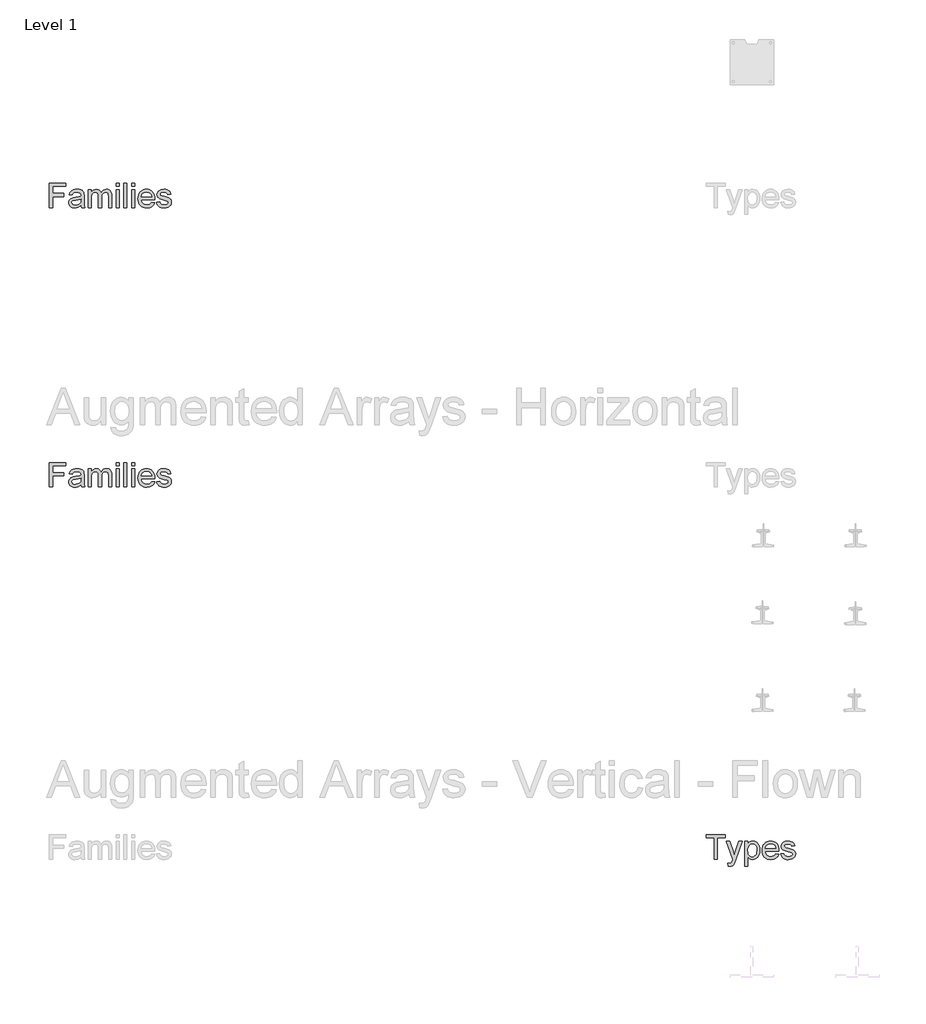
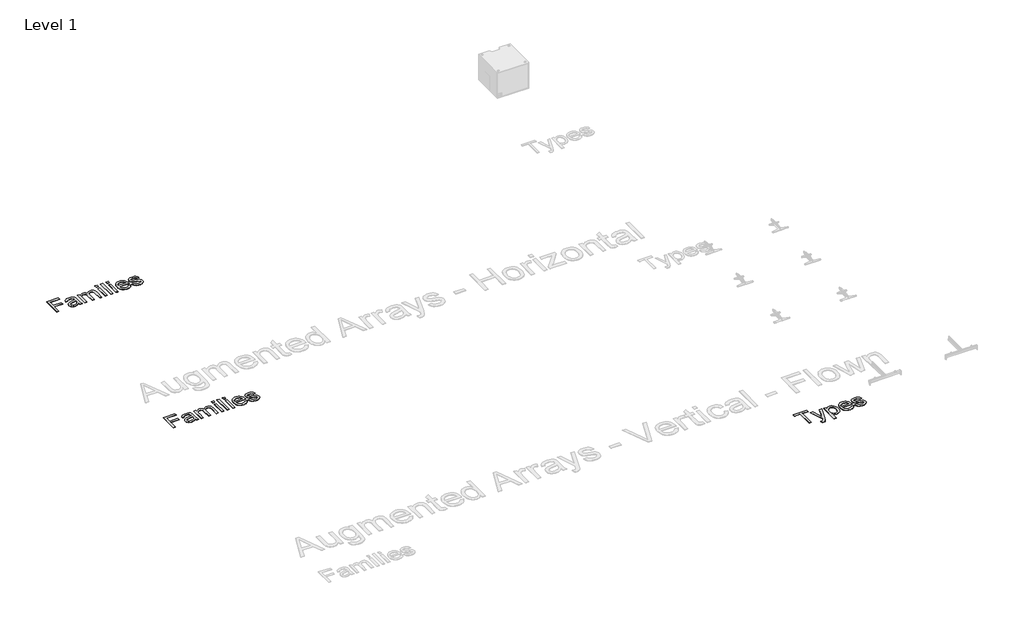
# One storey, part 4 of 9: 3 proxies.
"""IFC4 building model written with IfcOpenShell, lengths in millimetres."""

from ifc_helpers import new_model, si_unit, origin, origin_with_axes, place, context, project, spatial, polyline, outline, extrude, element, save

model = new_model("IFC4")

# Units and contexts
model_context = context("Model", 3, world=origin())
ifc_project = project(units=[si_unit("LENGTHUNIT", "METRE", prefix="MILLI")], contexts=[model_context])

# Site, building, storey
site = spatial("IfcSite", under=ifc_project)
building = spatial("IfcBuilding", under=site)
storey = spatial("IfcBuildingStorey", under=building, Name="Level 1", Elevation=0.0)

# Proxies
placement = place(None, origin())
element("IfcBuildingElementProxy", 1, Name="400mm Arial", ObjectType="400mm Arial", at=placement, inside=storey, context=model_context, shape_type="SweptSolid", body=[
    extrude(outline(polyline([(-21056.720891, 4351.3054836), (-21056.720891, 4743.0630593), (-20793.5087698, 4743.0630593), (-20793.5087698, 4694.0933624), (-21007.7511941, 4694.0933624), (-21007.7511941, 4577.7903321), (-20824.1148304, 4577.7903321), (-20824.1148304, 4528.8206351), (-21007.7511941, 4528.8206351), (-21007.7511941, 4351.3054836), (-21056.720891, 4351.3054836)])), origin_with_axes(), (0.0, 0.0, 1.0), 5.0),
    extrude(outline(polyline([(-20548.660285, 4388.0327563), (-20572.0571836, 4367.97144), (-20596.1475009, 4354.8443093), (-20621.4811893, 4347.5992809), (-20648.6082016, 4345.1842715), (-20670.4120309, 4346.6368638), (-20689.5318522, 4350.9946408), (-20705.9676654, 4358.2576024), (-20719.7194706, 4368.4257487), (-20730.5780466, 4380.8534831), (-20738.3341723, 4394.895209), (-20742.9878477, 4410.5509263), (-20744.5390729, 4427.8206351), (-20742.1957963, 4448.1210612), (-20735.1659668, 4466.5564305), (-20724.3223352, 4482.3376805), (-20710.5376524, 4494.6757487), (-20676.2493001, 4510.7439305), (-20633.879035, 4518.1085139), (-20583.8094327, 4525.855673), (-20548.9472168, 4534.9418472), (-20548.660285, 4545.8452563), (-20552.0317338, 4567.6998965), (-20562.1460804, 4581.9986654), (-20584.7658721, 4592.6151427), (-20616.2805501, 4596.1539684), (-20645.4519516, 4593.7987364), (-20665.8241107, 4586.7330404), (-20679.7163929, 4573.6656872), (-20689.4481638, 4553.3054836), (-20738.4178607, 4559.4266957), (-20729.9175056, 4586.2069987), (-20717.2327282, 4607.2486654), (-20699.1799346, 4623.3407582), (-20674.5755312, 4635.2723396), (-20644.4835568, 4642.660834), (-20609.9680501, 4645.1236654), (-20576.8632916, 4642.9477658), (-20550.6209857, 4636.4200669), (-20530.8346458, 4626.6046076), (-20517.097785, 4614.5654268), (-20507.9876997, 4599.6808387), (-20502.0816865, 4581.3291578), (-20499.690588, 4538.480673), (-20499.690588, 4477.5554836), (-20497.2038456, 4392.4801995), (-20487.4481638, 4351.3054836), (-20536.4178607, 4351.3054836), (-20544.2606638, 4368.3301048), (-20548.660285, 4388.0327563)]), holes=[polyline([(-20548.660285, 4485.9721502), (-20581.5618001, 4477.8185044), (-20627.6621789, 4470.9560518), (-20669.7933342, 4463.0176048), (-20680.7565208, 4457.5898112), (-20688.8743001, 4450.105673), (-20693.8956069, 4441.1390536), (-20695.5693759, 4431.2638169), (-20691.9229507, 4416.7020271), (-20680.9836751, 4404.7704457), (-20662.990659, 4396.8080877), (-20638.1830122, 4394.1539684), (-20611.8809289, 4397.0830641), (-20588.6394516, 4405.870351), (-20569.7975956, 4418.8181493), (-20556.6943759, 4434.228779), (-20550.8840066, 4450.105673), (-20548.9472168, 4472.103779), (-20548.660285, 4485.9721502)])]), origin_with_axes(), (0.0, 0.0, 1.0), 5.0),
    extrude(outline(polyline([(-20432.3572547, 4351.3054836), (-20432.3572547, 4639.0024533), (-20383.3875577, 4639.0024533), (-20383.3875577, 4591.6587033), (-20368.658391, 4613.405744), (-20349.720891, 4630.4423207), (-20327.2206543, 4641.4533292), (-20301.8032774, 4645.1236654), (-20274.5686657, 4641.3815963), (-20252.7379365, 4630.1553889), (-20236.4306448, 4612.1862838), (-20225.7663456, 4588.2155215), (-20207.9167954, 4613.1128344), (-20187.5565918, 4630.8966294), (-20164.6857348, 4641.5669064), (-20139.3042244, 4645.1236654), (-20119.7002057, 4643.6441732), (-20102.4932632, 4639.2056966), (-20087.683397, 4631.8082357), (-20075.2706069, 4621.4517904), (-20065.4581365, 4608.0168058), (-20058.4492291, 4591.3837269), (-20054.2438846, 4571.5525539), (-20052.8421032, 4548.5232866), (-20052.8421032, 4351.3054836), (-20101.8118001, 4351.3054836), (-20101.8118001, 4527.4816199), (-20106.3548872, 4568.369404), (-20112.7391202, 4579.6434334), (-20122.8056448, 4588.5024533), (-20135.7534431, 4594.2410896), (-20150.7814971, 4596.1539684), (-20177.3107348, 4591.2522165), (-20198.9382206, 4576.5469608), (-20207.3279874, 4565.2669537), (-20213.320678, 4551.03394), (-20218.1148304, 4513.7088927), (-20218.1148304, 4351.3054836), (-20267.0845274, 4351.3054836), (-20267.0845274, 4532.9333245), (-20269.9179791, 4560.6222449), (-20278.4183342, 4580.3727184), (-20293.3746552, 4592.2086559), (-20315.5760047, 4596.1539684), (-20334.4417717, 4593.5237601), (-20351.8250577, 4585.6331351), (-20366.1716486, 4572.6733813), (-20375.9273304, 4554.8357866), (-20381.5225009, 4530.0879173), (-20383.3875577, 4496.3973396), (-20383.3875577, 4351.3054836), (-20432.3572547, 4351.3054836)])), origin_with_axes(), (0.0, 0.0, 1.0), 5.0),
    extrude(outline(polyline([(-19979.3875577, 4351.3054836), (-19979.3875577, 4639.0024533), (-19930.4178607, 4639.0024533), (-19930.4178607, 4351.3054836), (-19979.3875577, 4351.3054836)])), origin_with_axes(), (0.0, 0.0, 1.0), 5.0),
    extrude(outline(polyline([(-19979.3875577, 4694.0933624), (-19979.3875577, 4743.0630593), (-19930.4178607, 4743.0630593), (-19930.4178607, 4694.0933624), (-19979.3875577, 4694.0933624)])), origin_with_axes(), (0.0, 0.0, 1.0), 5.0),
    extrude(outline(polyline([(-19856.9633153, 4351.3054836), (-19856.9633153, 4743.0630593), (-19807.9936183, 4743.0630593), (-19807.9936183, 4351.3054836), (-19856.9633153, 4351.3054836)])), origin_with_axes(), (0.0, 0.0, 1.0), 5.0),
    extrude(outline(polyline([(-19734.5390729, 4351.3054836), (-19734.5390729, 4639.0024533), (-19685.5693759, 4639.0024533), (-19685.5693759, 4351.3054836), (-19734.5390729, 4351.3054836)])), origin_with_axes(), (0.0, 0.0, 1.0), 5.0),
    extrude(outline(polyline([(-19734.5390729, 4694.0933624), (-19734.5390729, 4743.0630593), (-19685.5693759, 4743.0630593), (-19685.5693759, 4694.0933624), (-19734.5390729, 4694.0933624)])), origin_with_axes(), (0.0, 0.0, 1.0), 5.0),
    extrude(outline(polyline([(-19410.6886941, 4437.0024533), (-19362.6754365, 4430.8812411), (-19370.0370309, 4411.6508316), (-19379.975034, 4394.7039211), (-19392.4894457, 4380.0405096), (-19407.580266, 4367.6605972), (-19425.0920736, 4357.8272047), (-19444.8694469, 4350.8033529), (-19491.220891, 4345.1842715), (-19521.605775, 4347.6082475), (-19548.6789876, 4354.8801758), (-19572.4405288, 4367.0000563), (-19592.8903986, 4383.9678889), (-19609.3351784, 4405.3114317), (-19621.0814497, 4430.5584429), (-19628.1292125, 4459.7089223), (-19630.4784668, 4492.7628699), (-19628.1053015, 4526.937645), (-19620.9858058, 4557.0595082), (-19609.1199796, 4583.1284594), (-19592.5078229, 4605.1444987), (-19572.1117528, 4622.6353841), (-19548.8941865, 4635.1288737), (-19522.855124, 4642.6249675), (-19493.9945653, 4645.1236654), (-19466.0635461, 4642.6309452), (-19440.8045795, 4635.1527847), (-19418.2176654, 4622.6891839), (-19398.3028039, 4605.2401427), (-19382.0463231, 4583.2719253), (-19370.4345511, 4557.2507961), (-19363.4674879, 4527.1767549), (-19361.1451335, 4493.0498018), (-19361.4320653, 4479.8509381), (-19581.5087698, 4479.8509381), (-19578.6723292, 4460.3096858), (-19573.0323257, 4443.1953983), (-19564.5887592, 4428.5080759), (-19553.3416297, 4416.2477184), (-19524.9234242, 4399.6774059), (-19490.2644516, 4394.1539684), (-19464.2014782, 4396.7124438), (-19442.2511941, 4404.3878699), (-19424.4135994, 4417.6584665), (-19410.6886941, 4437.0024533)]), holes=[polyline([(-19581.5087698, 4528.8206351), (-19410.1148304, 4528.8206351), (-19416.7381732, 4554.6923207), (-19429.721838, 4573.199423), (-19443.076123, 4583.2420366), (-19458.2715539, 4590.4153321), (-19494.1858532, 4596.1539684), (-19527.1949677, 4591.5750148), (-19554.4893569, 4577.838154), (-19573.4627234, 4556.4258671), (-19581.5087698, 4528.8206351)])]), origin_with_axes(), (0.0, 0.0, 1.0), 5.0),
    extrude(outline(polyline([(-19330.5390729, 4437.0024533), (-19281.5693759, 4443.1236654), (-19273.8461278, 4422.1776427), (-19258.9017622, 4406.7789684), (-19236.6406354, 4397.3102184), (-19206.9671032, 4394.1539684), (-19177.6522357, 4397.0471976), (-19157.0409668, 4405.7268851), (-19144.8463645, 4418.3040631), (-19140.7814971, 4432.8897639), (-19144.8702755, 4445.371298), (-19157.1366107, 4454.8878699), (-19207.5409668, 4468.8518851), (-19281.2824441, 4492.8106919), (-19299.9449677, 4504.8498728), (-19313.4666297, 4520.7865442), (-19321.680053, 4539.6044893), (-19324.4178607, 4560.2874911), (-19322.2180501, 4579.2608576), (-19315.6186183, 4596.775654), (-19305.2173399, 4612.1384618), (-19291.6119895, 4624.6558624), (-19260.4798872, 4639.1459192), (-19218.3487319, 4645.1236654), (-19186.4753891, 4642.7206114), (-19158.7625577, 4635.5114495), (-19136.4775198, 4624.2015536), (-19120.8875577, 4609.496298), (-19110.5580122, 4590.3077326), (-19104.0542244, 4565.5479078), (-19153.0239213, 4559.4266957), (-19159.2049109, 4574.8373254), (-19171.4353797, 4586.4461086), (-19189.8348825, 4593.7270035), (-19214.5229744, 4596.1539684), (-19242.6422925, 4593.8346029), (-19261.3885047, 4586.8765063), (-19271.933249, 4576.8338927), (-19275.4481638, 4565.260976), (-19269.6138835, 4551.010029), (-19251.345891, 4540.2022639), (-19209.1669138, 4529.7770745), (-19137.2904933, 4506.7268851), (-19118.3051713, 4495.7039211), (-19103.9107585, 4480.6160896), (-19094.8365397, 4461.4155688), (-19091.8118001, 4438.0545366), (-19095.3625814, 4413.9044419), (-19106.0149251, 4391.1890063), (-19123.3623446, 4371.6895982), (-19146.9983532, 4357.1875858), (-19175.5480691, 4348.1851), (-19207.6366107, 4345.1842715), (-19233.9924938, 4346.630886), (-19257.0127944, 4350.9707298), (-19276.6975127, 4358.2038027), (-19293.0466486, 4368.3301048), (-19306.4009336, 4381.3018141), (-19317.1010994, 4397.0711086), (-19325.1471458, 4415.6379883), (-19330.5390729, 4437.0024533)])), origin_with_axes(), (0.0, 0.0, 1.0), 5.0),
])
element("IfcBuildingElementProxy", 2, Name="400mm Arial", ObjectType="400mm Arial", at=placement, inside=storey, context=model_context, shape_type="SweptSolid", body=[
    extrude(outline(polyline([(-10345.9583027, -1648.6945164), (-10345.9583027, -1305.9066376), (-10474.5037572, -1305.9066376), (-10474.5037572, -1256.9369407), (-10168.4431512, -1256.9369407), (-10168.4431512, -1305.9066376), (-10296.9886057, -1305.9066376), (-10296.9886057, -1648.6945164), (-10345.9583027, -1648.6945164)])), origin_with_axes(), (0.0, 0.0, 1.0), 5.0),
    extrude(outline(polyline([(-10119.4734542, -1758.8763346), (-10125.5946663, -1711.7238725), (-10100.7272421, -1716.0278498), (-10087.6479334, -1714.6768791), (-10077.4857648, -1710.6239672), (-10063.2348179, -1695.5600467), (-10049.8446663, -1659.5022816), (-10046.0189088, -1647.6424331), (-10150.0795148, -1360.9975467), (-10098.4317875, -1360.9975467), (-10043.2452345, -1520.7229255), (-10024.0208027, -1584.613077), (-10004.7963709, -1528.1831528), (-9948.0795148, -1360.9975467), (-9896.8143633, -1360.9975467), (-9996.9535679, -1655.5808801), (-10022.9687194, -1719.4710316), (-10036.2871379, -1739.8671017), (-10051.3749694, -1753.9984937), (-10068.9017213, -1762.2477835), (-10089.5369012, -1764.9975467), (-10119.4734542, -1758.8763346)])), origin_with_axes(), (0.0, 0.0, 1.0), 5.0),
    extrude(outline(polyline([(-9856.261333, -1758.8763346), (-9856.261333, -1360.9975467), (-9807.291636, -1360.9975467), (-9807.291636, -1409.0108043), (-9791.3190982, -1385.3269738), (-9773.4336815, -1368.409952), (-9752.5833027, -1358.259739), (-9727.7158785, -1354.8763346), (-9694.5991644, -1359.6107096), (-9665.6429618, -1373.8138346), (-9642.0667307, -1396.6249142), (-9625.0899315, -1427.1831528), (-9614.832119, -1463.2648289), (-9611.4128482, -1502.646221), (-9615.2744722, -1544.5263109), (-9626.8593444, -1581.9828687), (-9645.7968444, -1613.114971), (-9671.7163519, -1636.0216945), (-9701.9039703, -1650.11722), (-9733.6458027, -1654.8157285), (-9756.1579949, -1651.671434), (-9776.2551777, -1642.2385505), (-9793.4591313, -1627.999559), (-9807.291636, -1610.4369407), (-9807.291636, -1758.8763346), (-9856.261333, -1758.8763346)]), holes=[polyline([(-9807.291636, -1507.1414861), (-9801.9953529, -1551.0420543), (-9795.374999, -1568.0427645), (-9786.1065035, -1581.7437589), (-9762.6617828, -1599.8204634), (-9749.2447314, -1604.3396395), (-9734.697886, -1605.8460316), (-9719.9418195, -1604.2858398), (-9706.2796805, -1599.6052645), (-9682.2371853, -1580.8829634), (-9672.6757802, -1566.6858161), (-9665.8462052, -1549.0574426), (-9660.3825451, -1503.5070164), (-9665.7146947, -1459.8455581), (-9672.3798818, -1442.7133375), (-9681.7111436, -1428.7134558), (-9705.1199978, -1410.0628876), (-9718.3846166, -1405.4002456), (-9732.6893633, -1403.8460316), (-9746.9492769, -1405.4988784), (-9760.3663283, -1410.4574189), (-9784.6718444, -1430.2915808), (-9794.5680032, -1445.0117809), (-9801.6366881, -1462.7268318), (-9805.8778991, -1483.4367335), (-9807.291636, -1507.1414861)])]), origin_with_axes(), (0.0, 0.0, 1.0), 5.0),
    extrude(outline(polyline([(-9354.8958027, -1562.9975467), (-9306.8825451, -1569.1187589), (-9314.2441396, -1588.3491684), (-9324.1821427, -1605.2960789), (-9336.6965544, -1619.9594904), (-9351.7873747, -1632.3394028), (-9369.2991822, -1642.1727953), (-9389.0765555, -1649.1966471), (-9435.4279997, -1654.8157285), (-9465.8128837, -1652.3917525), (-9492.8860963, -1645.1198242), (-9516.6476375, -1632.9999437), (-9537.0975072, -1616.0321111), (-9553.5422871, -1594.6885683), (-9565.2885584, -1569.4415571), (-9572.3363212, -1540.2910777), (-9574.6855754, -1507.2371301), (-9572.3124102, -1473.062355), (-9565.1929144, -1442.9404918), (-9553.3270882, -1416.8715406), (-9536.7149315, -1394.8555013), (-9516.3188614, -1377.3646159), (-9493.1012951, -1364.8711263), (-9467.0622326, -1357.3750325), (-9438.2016739, -1354.8763346), (-9410.2706547, -1357.3690548), (-9385.0116881, -1364.8472153), (-9362.4247741, -1377.3108161), (-9342.5099125, -1394.7598573), (-9326.2534317, -1416.7280747), (-9314.6416597, -1442.7492039), (-9307.6745965, -1472.8232451), (-9305.3522421, -1506.9501982), (-9305.6391739, -1520.1490619), (-9525.7158785, -1520.1490619), (-9522.8794379, -1539.6903142), (-9517.2394343, -1556.8046017), (-9508.7958678, -1571.4919241), (-9497.5487383, -1583.7522816), (-9469.1305328, -1600.3225941), (-9434.4715603, -1605.8460316), (-9408.4085868, -1603.2875562), (-9386.4583027, -1595.6121301), (-9368.620708, -1582.3415335), (-9354.8958027, -1562.9975467)]), holes=[polyline([(-9525.7158785, -1471.1793649), (-9354.3219391, -1471.1793649), (-9360.9452819, -1445.3076793), (-9373.9289466, -1426.800577), (-9387.2832317, -1416.7579634), (-9402.4786625, -1409.5846679), (-9438.3929618, -1403.8460316), (-9471.4020764, -1408.4249852), (-9498.6964656, -1422.161846), (-9517.6698321, -1443.5741329), (-9525.7158785, -1471.1793649)])]), origin_with_axes(), (0.0, 0.0, 1.0), 5.0),
    extrude(outline(polyline([(-9274.7461815, -1562.9975467), (-9225.7764845, -1556.8763346), (-9218.0532364, -1577.8223573), (-9203.1088709, -1593.2210316), (-9180.847744, -1602.6897816), (-9151.1742118, -1605.8460316), (-9121.8593444, -1602.9528024), (-9101.2480754, -1594.2731149), (-9089.0534732, -1581.6959369), (-9084.9886057, -1567.1102361), (-9089.0773841, -1554.628702), (-9101.3437194, -1545.1121301), (-9151.7480754, -1531.1481149), (-9225.4895527, -1507.1893081), (-9244.1520764, -1495.1501272), (-9257.6737383, -1479.2134558), (-9265.8871616, -1460.3955107), (-9268.6249694, -1439.7125089), (-9266.4251588, -1420.7391424), (-9259.8257269, -1403.224346), (-9249.4244485, -1387.8615382), (-9235.8190982, -1375.3441376), (-9204.6869959, -1360.8540808), (-9162.5558406, -1354.8763346), (-9130.6824978, -1357.2793886), (-9102.9696663, -1364.4885505), (-9080.6846285, -1375.7984464), (-9065.0946663, -1390.503702), (-9054.7651209, -1409.6922674), (-9048.261333, -1434.4520922), (-9097.23103, -1440.5733043), (-9103.4120196, -1425.1626746), (-9115.6424883, -1413.5538914), (-9134.0419911, -1406.2729965), (-9158.730083, -1403.8460316), (-9186.8494012, -1406.1653971), (-9205.5956133, -1413.1234937), (-9216.1403576, -1423.1661073), (-9219.6552724, -1434.739024), (-9213.8209921, -1448.989971), (-9195.5529997, -1459.7977361), (-9153.3740224, -1470.2229255), (-9081.4976019, -1493.2731149), (-9062.51228, -1504.2960789), (-9048.1178671, -1519.3839104), (-9039.0436483, -1538.5844312), (-9036.0189088, -1561.9454634), (-9039.56969, -1586.0955581), (-9050.2220338, -1608.8109937), (-9067.5694533, -1628.3104018), (-9091.2054618, -1642.8124142), (-9119.7551777, -1651.8149), (-9151.8437194, -1654.8157285), (-9178.1996024, -1653.369114), (-9201.2199031, -1649.0292702), (-9220.9046214, -1641.7961973), (-9237.2537572, -1631.6698952), (-9250.6080423, -1618.6981859), (-9261.308208, -1602.9288914), (-9269.3542544, -1584.3620117), (-9274.7461815, -1562.9975467)])), origin_with_axes(), (0.0, 0.0, 1.0), 5.0),
])
element("IfcBuildingElementProxy", 3, Name="400mm Arial", ObjectType="400mm Arial", at=placement, inside=storey, context=model_context, shape_type="SweptSolid", body=[
    extrude(outline(polyline([(-21056.720891, 8851.3054836), (-21056.720891, 9243.0630593), (-20793.5087698, 9243.0630593), (-20793.5087698, 9194.0933624), (-21007.7511941, 9194.0933624), (-21007.7511941, 9077.7903321), (-20824.1148304, 9077.7903321), (-20824.1148304, 9028.8206351), (-21007.7511941, 9028.8206351), (-21007.7511941, 8851.3054836), (-21056.720891, 8851.3054836)])), origin_with_axes(), (0.0, 0.0, 1.0), 5.0),
    extrude(outline(polyline([(-20548.660285, 8888.0327563), (-20572.0571836, 8867.97144), (-20596.1475009, 8854.8443093), (-20621.4811893, 8847.5992809), (-20648.6082016, 8845.1842715), (-20670.4120309, 8846.6368638), (-20689.5318522, 8850.9946408), (-20705.9676654, 8858.2576024), (-20719.7194706, 8868.4257487), (-20730.5780466, 8880.8534831), (-20738.3341723, 8894.895209), (-20742.9878477, 8910.5509263), (-20744.5390729, 8927.8206351), (-20742.1957963, 8948.1210612), (-20735.1659668, 8966.5564305), (-20724.3223352, 8982.3376805), (-20710.5376524, 8994.6757487), (-20676.2493001, 9010.7439305), (-20633.879035, 9018.1085139), (-20583.8094327, 9025.855673), (-20548.9472168, 9034.9418472), (-20548.660285, 9045.8452563), (-20552.0317338, 9067.6998965), (-20562.1460804, 9081.9986654), (-20584.7658721, 9092.6151427), (-20616.2805501, 9096.1539684), (-20645.4519516, 9093.7987364), (-20665.8241107, 9086.7330404), (-20679.7163929, 9073.6656872), (-20689.4481638, 9053.3054836), (-20738.4178607, 9059.4266957), (-20729.9175056, 9086.2069987), (-20717.2327282, 9107.2486654), (-20699.1799346, 9123.3407582), (-20674.5755312, 9135.2723396), (-20644.4835568, 9142.660834), (-20609.9680501, 9145.1236654), (-20576.8632916, 9142.9477658), (-20550.6209857, 9136.4200669), (-20530.8346458, 9126.6046076), (-20517.097785, 9114.5654268), (-20507.9876997, 9099.6808387), (-20502.0816865, 9081.3291578), (-20499.690588, 9038.480673), (-20499.690588, 8977.5554836), (-20497.2038456, 8892.4801995), (-20487.4481638, 8851.3054836), (-20536.4178607, 8851.3054836), (-20544.2606638, 8868.3301048), (-20548.660285, 8888.0327563)]), holes=[polyline([(-20548.660285, 8985.9721502), (-20581.5618001, 8977.8185044), (-20627.6621789, 8970.9560518), (-20669.7933342, 8963.0176048), (-20680.7565208, 8957.5898112), (-20688.8743001, 8950.105673), (-20693.8956069, 8941.1390536), (-20695.5693759, 8931.2638169), (-20691.9229507, 8916.7020271), (-20680.9836751, 8904.7704457), (-20662.990659, 8896.8080877), (-20638.1830122, 8894.1539684), (-20611.8809289, 8897.0830641), (-20588.6394516, 8905.870351), (-20569.7975956, 8918.8181493), (-20556.6943759, 8934.228779), (-20550.8840066, 8950.105673), (-20548.9472168, 8972.103779), (-20548.660285, 8985.9721502)])]), origin_with_axes(), (0.0, 0.0, 1.0), 5.0),
    extrude(outline(polyline([(-20432.3572547, 8851.3054836), (-20432.3572547, 9139.0024533), (-20383.3875577, 9139.0024533), (-20383.3875577, 9091.6587033), (-20368.658391, 9113.405744), (-20349.720891, 9130.4423207), (-20327.2206543, 9141.4533292), (-20301.8032774, 9145.1236654), (-20274.5686657, 9141.3815963), (-20252.7379365, 9130.1553889), (-20236.4306448, 9112.1862838), (-20225.7663456, 9088.2155215), (-20207.9167954, 9113.1128344), (-20187.5565918, 9130.8966294), (-20164.6857348, 9141.5669064), (-20139.3042244, 9145.1236654), (-20119.7002057, 9143.6441732), (-20102.4932632, 9139.2056966), (-20087.683397, 9131.8082357), (-20075.2706069, 9121.4517904), (-20065.4581365, 9108.0168058), (-20058.4492291, 9091.3837269), (-20054.2438846, 9071.5525539), (-20052.8421032, 9048.5232866), (-20052.8421032, 8851.3054836), (-20101.8118001, 8851.3054836), (-20101.8118001, 9027.4816199), (-20106.3548872, 9068.369404), (-20112.7391202, 9079.6434334), (-20122.8056448, 9088.5024533), (-20135.7534431, 9094.2410896), (-20150.7814971, 9096.1539684), (-20177.3107348, 9091.2522165), (-20198.9382206, 9076.5469608), (-20207.3279874, 9065.2669537), (-20213.320678, 9051.03394), (-20218.1148304, 9013.7088927), (-20218.1148304, 8851.3054836), (-20267.0845274, 8851.3054836), (-20267.0845274, 9032.9333245), (-20269.9179791, 9060.6222449), (-20278.4183342, 9080.3727184), (-20293.3746552, 9092.2086559), (-20315.5760047, 9096.1539684), (-20334.4417717, 9093.5237601), (-20351.8250577, 9085.6331351), (-20366.1716486, 9072.6733813), (-20375.9273304, 9054.8357866), (-20381.5225009, 9030.0879173), (-20383.3875577, 8996.3973396), (-20383.3875577, 8851.3054836), (-20432.3572547, 8851.3054836)])), origin_with_axes(), (0.0, 0.0, 1.0), 5.0),
    extrude(outline(polyline([(-19979.3875577, 8851.3054836), (-19979.3875577, 9139.0024533), (-19930.4178607, 9139.0024533), (-19930.4178607, 8851.3054836), (-19979.3875577, 8851.3054836)])), origin_with_axes(), (0.0, 0.0, 1.0), 5.0),
    extrude(outline(polyline([(-19979.3875577, 9194.0933624), (-19979.3875577, 9243.0630593), (-19930.4178607, 9243.0630593), (-19930.4178607, 9194.0933624), (-19979.3875577, 9194.0933624)])), origin_with_axes(), (0.0, 0.0, 1.0), 5.0),
    extrude(outline(polyline([(-19856.9633153, 8851.3054836), (-19856.9633153, 9243.0630593), (-19807.9936183, 9243.0630593), (-19807.9936183, 8851.3054836), (-19856.9633153, 8851.3054836)])), origin_with_axes(), (0.0, 0.0, 1.0), 5.0),
    extrude(outline(polyline([(-19734.5390729, 8851.3054836), (-19734.5390729, 9139.0024533), (-19685.5693759, 9139.0024533), (-19685.5693759, 8851.3054836), (-19734.5390729, 8851.3054836)])), origin_with_axes(), (0.0, 0.0, 1.0), 5.0),
    extrude(outline(polyline([(-19734.5390729, 9194.0933624), (-19734.5390729, 9243.0630593), (-19685.5693759, 9243.0630593), (-19685.5693759, 9194.0933624), (-19734.5390729, 9194.0933624)])), origin_with_axes(), (0.0, 0.0, 1.0), 5.0),
    extrude(outline(polyline([(-19410.6886941, 8937.0024533), (-19362.6754365, 8930.8812411), (-19370.0370309, 8911.6508316), (-19379.975034, 8894.7039211), (-19392.4894457, 8880.0405096), (-19407.580266, 8867.6605972), (-19425.0920736, 8857.8272047), (-19444.8694469, 8850.8033529), (-19491.220891, 8845.1842715), (-19521.605775, 8847.6082475), (-19548.6789876, 8854.8801758), (-19572.4405288, 8867.0000563), (-19592.8903986, 8883.9678889), (-19609.3351784, 8905.3114317), (-19621.0814497, 8930.5584429), (-19628.1292125, 8959.7089223), (-19630.4784668, 8992.7628699), (-19628.1053015, 9026.937645), (-19620.9858058, 9057.0595082), (-19609.1199796, 9083.1284594), (-19592.5078229, 9105.1444987), (-19572.1117528, 9122.6353841), (-19548.8941865, 9135.1288737), (-19522.855124, 9142.6249675), (-19493.9945653, 9145.1236654), (-19466.0635461, 9142.6309452), (-19440.8045795, 9135.1527847), (-19418.2176654, 9122.6891839), (-19398.3028039, 9105.2401427), (-19382.0463231, 9083.2719253), (-19370.4345511, 9057.2507961), (-19363.4674879, 9027.1767549), (-19361.1451335, 8993.0498018), (-19361.4320653, 8979.8509381), (-19581.5087698, 8979.8509381), (-19578.6723292, 8960.3096858), (-19573.0323257, 8943.1953983), (-19564.5887592, 8928.5080759), (-19553.3416297, 8916.2477184), (-19524.9234242, 8899.6774059), (-19490.2644516, 8894.1539684), (-19464.2014782, 8896.7124438), (-19442.2511941, 8904.3878699), (-19424.4135994, 8917.6584665), (-19410.6886941, 8937.0024533)]), holes=[polyline([(-19581.5087698, 9028.8206351), (-19410.1148304, 9028.8206351), (-19416.7381732, 9054.6923207), (-19429.721838, 9073.199423), (-19443.076123, 9083.2420366), (-19458.2715539, 9090.4153321), (-19494.1858532, 9096.1539684), (-19527.1949677, 9091.5750148), (-19554.4893569, 9077.838154), (-19573.4627234, 9056.4258671), (-19581.5087698, 9028.8206351)])]), origin_with_axes(), (0.0, 0.0, 1.0), 5.0),
    extrude(outline(polyline([(-19330.5390729, 8937.0024533), (-19281.5693759, 8943.1236654), (-19273.8461278, 8922.1776427), (-19258.9017622, 8906.7789684), (-19236.6406354, 8897.3102184), (-19206.9671032, 8894.1539684), (-19177.6522357, 8897.0471976), (-19157.0409668, 8905.7268851), (-19144.8463645, 8918.3040631), (-19140.7814971, 8932.8897639), (-19144.8702755, 8945.371298), (-19157.1366107, 8954.8878699), (-19207.5409668, 8968.8518851), (-19281.2824441, 8992.8106919), (-19299.9449677, 9004.8498728), (-19313.4666297, 9020.7865442), (-19321.680053, 9039.6044893), (-19324.4178607, 9060.2874911), (-19322.2180501, 9079.2608576), (-19315.6186183, 9096.775654), (-19305.2173399, 9112.1384618), (-19291.6119895, 9124.6558624), (-19260.4798872, 9139.1459192), (-19218.3487319, 9145.1236654), (-19186.4753891, 9142.7206114), (-19158.7625577, 9135.5114495), (-19136.4775198, 9124.2015536), (-19120.8875577, 9109.496298), (-19110.5580122, 9090.3077326), (-19104.0542244, 9065.5479078), (-19153.0239213, 9059.4266957), (-19159.2049109, 9074.8373254), (-19171.4353797, 9086.4461086), (-19189.8348825, 9093.7270035), (-19214.5229744, 9096.1539684), (-19242.6422925, 9093.8346029), (-19261.3885047, 9086.8765063), (-19271.933249, 9076.8338927), (-19275.4481638, 9065.260976), (-19269.6138835, 9051.010029), (-19251.345891, 9040.2022639), (-19209.1669138, 9029.7770745), (-19137.2904933, 9006.7268851), (-19118.3051713, 8995.7039211), (-19103.9107585, 8980.6160896), (-19094.8365397, 8961.4155688), (-19091.8118001, 8938.0545366), (-19095.3625814, 8913.9044419), (-19106.0149251, 8891.1890063), (-19123.3623446, 8871.6895982), (-19146.9983532, 8857.1875858), (-19175.5480691, 8848.1851), (-19207.6366107, 8845.1842715), (-19233.9924938, 8846.630886), (-19257.0127944, 8850.9707298), (-19276.6975127, 8858.2038027), (-19293.0466486, 8868.3301048), (-19306.4009336, 8881.3018141), (-19317.1010994, 8897.0711086), (-19325.1471458, 8915.6379883), (-19330.5390729, 8937.0024533)])), origin_with_axes(), (0.0, 0.0, 1.0), 5.0),
])

save(model, "model.ifc")
